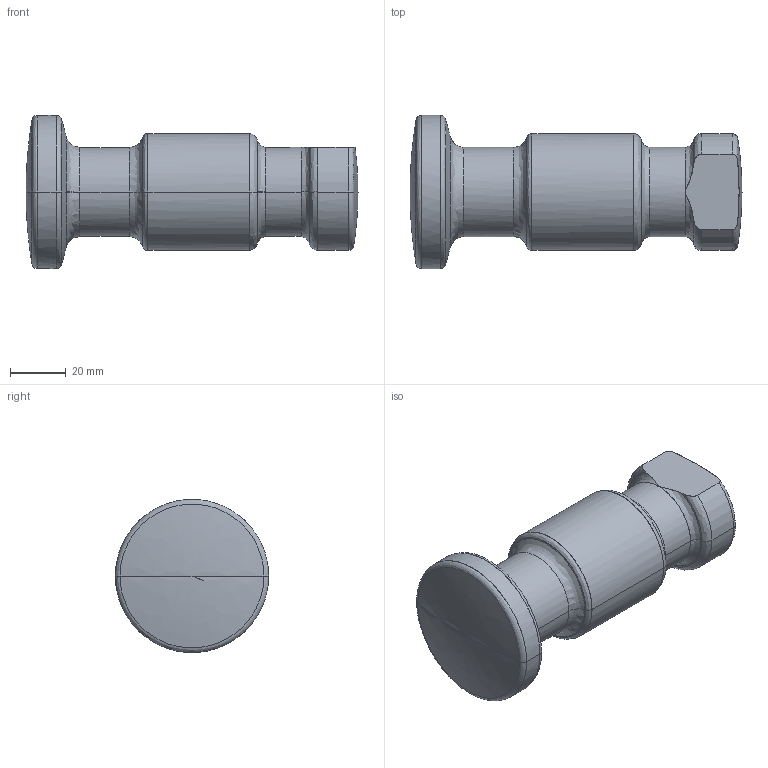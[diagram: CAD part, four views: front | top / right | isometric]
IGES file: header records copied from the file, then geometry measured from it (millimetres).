
Global section: file name: E:\UnigraphicsGraphicData\MISUMI_PRESS-PARTS\IGES\3d_chf32_03514_r00.igs; native system: NX V5.0; preprocessor: UGS NX IGES V5.0; author: MISUMI; date: 20110105.160215; units: millimetre
Bounding box: 119.2 x 55 x 54.94 mm (x, y, z)
Surface area: 19531.4 mm2 (no closed solid volume)
Topology: 0 solids, 0 shells, 48 faces, 214 edges, 210 vertices
Faces by surface type: bspline 48
